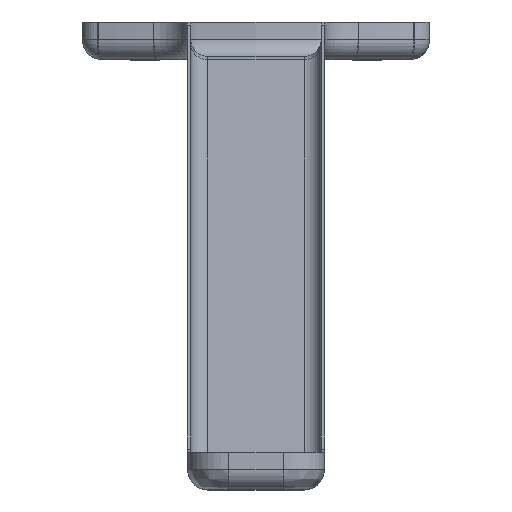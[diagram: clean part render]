
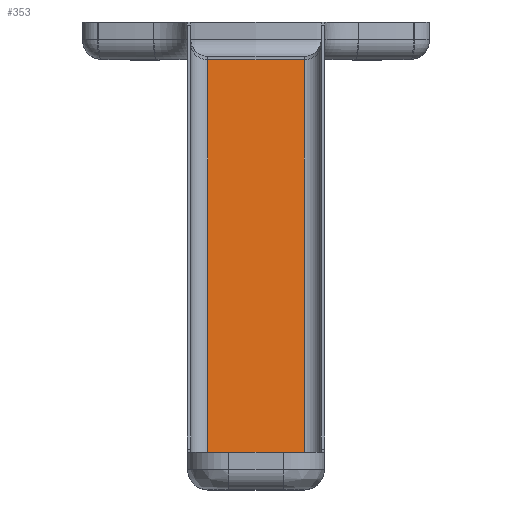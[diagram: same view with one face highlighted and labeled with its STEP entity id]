
A CAD part, top view. The second image highlights one B-rep face of the part: STEP entity #353.
In plain terms, the highlighted planar face has unit normal (0, 0.92, 0.391).
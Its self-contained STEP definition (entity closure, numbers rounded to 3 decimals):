
#353=ADVANCED_FACE('',(#471),#435,.F.);
#435=PLANE('',#1765);
#471=FACE_OUTER_BOUND('',#569,.T.);
#569=EDGE_LOOP('',(#841,#842,#843,#844));
#841=ORIENTED_EDGE('',*,*,#1385,.F.);
#842=ORIENTED_EDGE('',*,*,#1386,.T.);
#843=ORIENTED_EDGE('',*,*,#1387,.F.);
#844=ORIENTED_EDGE('',*,*,#1388,.T.);
#1217=VERTEX_POINT('',#2730);
#1218=VERTEX_POINT('',#2731);
#1219=VERTEX_POINT('',#2733);
#1220=VERTEX_POINT('',#2735);
#1385=EDGE_CURVE('',#1217,#1218,#1549,.T.);
#1386=EDGE_CURVE('',#1217,#1219,#1550,.T.);
#1387=EDGE_CURVE('',#1220,#1219,#1551,.T.);
#1388=EDGE_CURVE('',#1220,#1218,#1552,.T.);
#1549=LINE('',#2729,#1643);
#1550=LINE('',#2732,#1644);
#1551=LINE('',#2734,#1645);
#1552=LINE('',#2736,#1646);
#1643=VECTOR('',#2159,1.);
#1644=VECTOR('',#2160,1.);
#1645=VECTOR('',#2161,1.);
#1646=VECTOR('',#2162,1.);
#1765=AXIS2_PLACEMENT_3D('',#2737,#2163,#2164);
#2159=DIRECTION('',(-1.,0.,0.));
#2160=DIRECTION('',(0.,0.391,-0.921));
#2161=DIRECTION('',(1.,0.,0.));
#2162=DIRECTION('',(0.,-0.391,0.921));
#2163=DIRECTION('',(0.,-0.921,-0.391));
#2164=DIRECTION('',(0.356,0.365,-0.86));
#2729=CARTESIAN_POINT('',(-37.961,-231.063,248.929));
#2730=CARTESIAN_POINT('',(-40.961,-231.063,248.929));
#2731=CARTESIAN_POINT('',(-54.961,-231.063,248.929));
#2732=CARTESIAN_POINT('',(-40.961,-168.54,101.634));
#2733=CARTESIAN_POINT('',(-40.961,-169.017,102.757));
#2734=CARTESIAN_POINT('',(-37.961,-169.017,102.757));
#2735=CARTESIAN_POINT('',(-54.961,-169.017,102.757));
#2736=CARTESIAN_POINT('',(-54.961,-231.063,248.929));
#2737=CARTESIAN_POINT('',(-37.961,-168.54,101.634));
